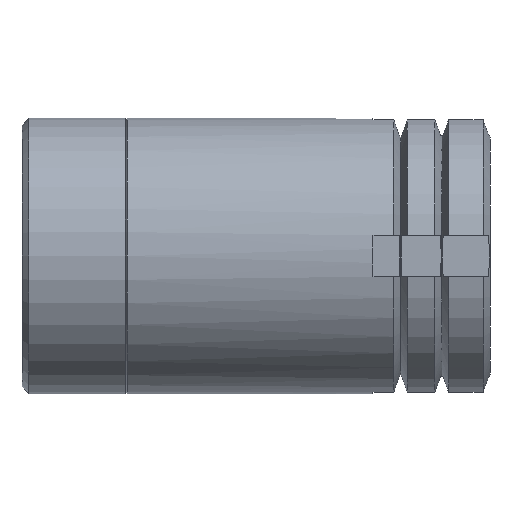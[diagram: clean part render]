
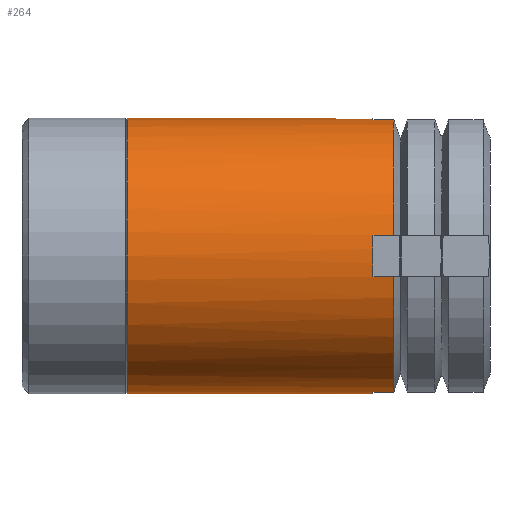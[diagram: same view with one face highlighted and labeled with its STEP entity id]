
A CAD part, front view. The second image highlights one B-rep face of the part: STEP entity #264.
In plain terms, the highlighted cylindrical face has radius 20 mm (diameter 40 mm), a full revolution.
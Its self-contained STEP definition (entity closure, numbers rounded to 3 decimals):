
#264 = ADVANCED_FACE( '', ( #402, #403 ), #404, .T. );
#402 = FACE_OUTER_BOUND( '', #640, .T. );
#403 = FACE_OUTER_BOUND( '', #641, .T. );
#404 = CYLINDRICAL_SURFACE( '', #642, 20. );
#640 = EDGE_LOOP( '', ( #922 ) );
#641 = EDGE_LOOP( '', ( #923, #924, #925, #926, #927, #928, #929, #930, #931, #932, #933, #934, #935, #936, #937, #938 ) );
#642 = AXIS2_PLACEMENT_3D( '', #939, #940, #941 );
#922 = ORIENTED_EDGE( '', *, *, #1500, .F. );
#923 = ORIENTED_EDGE( '', *, *, #1501, .F. );
#924 = ORIENTED_EDGE( '', *, *, #1502, .T. );
#925 = ORIENTED_EDGE( '', *, *, #1503, .T. );
#926 = ORIENTED_EDGE( '', *, *, #1504, .F. );
#927 = ORIENTED_EDGE( '', *, *, #1505, .F. );
#928 = ORIENTED_EDGE( '', *, *, #1506, .T. );
#929 = ORIENTED_EDGE( '', *, *, #1507, .T. );
#930 = ORIENTED_EDGE( '', *, *, #1508, .F. );
#931 = ORIENTED_EDGE( '', *, *, #1509, .F. );
#932 = ORIENTED_EDGE( '', *, *, #1486, .T. );
#933 = ORIENTED_EDGE( '', *, *, #1510, .T. );
#934 = ORIENTED_EDGE( '', *, *, #1511, .F. );
#935 = ORIENTED_EDGE( '', *, *, #1512, .F. );
#936 = ORIENTED_EDGE( '', *, *, #1513, .T. );
#937 = ORIENTED_EDGE( '', *, *, #1514, .T. );
#938 = ORIENTED_EDGE( '', *, *, #1515, .F. );
#939 = CARTESIAN_POINT( '', ( 0., 5.577, 0. ) );
#940 = DIRECTION( '', ( 0., 1., 0. ) );
#941 = DIRECTION( '', ( 0., 0., -1. ) );
#1486 = EDGE_CURVE( '', #1685, #1683, #1686, .T. );
#1500 = EDGE_CURVE( '', #1712, #1712, #1713, .T. );
#1501 = EDGE_CURVE( '', #1714, #1715, #1716, .T. );
#1502 = EDGE_CURVE( '', #1714, #1717, #1718, .T. );
#1503 = EDGE_CURVE( '', #1717, #1719, #1720, .T. );
#1504 = EDGE_CURVE( '', #1721, #1719, #1722, .T. );
#1505 = EDGE_CURVE( '', #1723, #1721, #1724, .T. );
#1506 = EDGE_CURVE( '', #1723, #1725, #1726, .T. );
#1507 = EDGE_CURVE( '', #1725, #1727, #1728, .T. );
#1508 = EDGE_CURVE( '', #1729, #1727, #1730, .T. );
#1509 = EDGE_CURVE( '', #1685, #1729, #1731, .T. );
#1510 = EDGE_CURVE( '', #1683, #1732, #1733, .T. );
#1511 = EDGE_CURVE( '', #1734, #1732, #1735, .T. );
#1512 = EDGE_CURVE( '', #1736, #1734, #1737, .T. );
#1513 = EDGE_CURVE( '', #1736, #1738, #1739, .T. );
#1514 = EDGE_CURVE( '', #1738, #1740, #1741, .T. );
#1515 = EDGE_CURVE( '', #1715, #1740, #1742, .T. );
#1683 = VERTEX_POINT( '', #2011 );
#1685 = VERTEX_POINT( '', #2019 );
#1686 = LINE( '', #2020, #2021 );
#1712 = VERTEX_POINT( '', #2049 );
#1713 = CIRCLE( '', #2050, 20. );
#1714 = VERTEX_POINT( '', #2051 );
#1715 = VERTEX_POINT( '', #2052 );
#1716 = CIRCLE( '', #2053, 20. );
#1717 = VERTEX_POINT( '', #2054 );
#1718 = LINE( '', #2055, #2056 );
#1719 = VERTEX_POINT( '', #2057 );
#1720 = CIRCLE( '', #2058, 20. );
#1721 = VERTEX_POINT( '', #2059 );
#1722 = LINE( '', #2060, #2061 );
#1723 = VERTEX_POINT( '', #2062 );
#1724 = CIRCLE( '', #2063, 20. );
#1725 = VERTEX_POINT( '', #2064 );
#1726 = LINE( '', #2065, #2066 );
#1727 = VERTEX_POINT( '', #2067 );
#1728 = CIRCLE( '', #2068, 20. );
#1729 = VERTEX_POINT( '', #2069 );
#1730 = LINE( '', #2070, #2071 );
#1731 = CIRCLE( '', #2072, 20. );
#1732 = VERTEX_POINT( '', #2073 );
#1733 = CIRCLE( '', #2074, 20. );
#1734 = VERTEX_POINT( '', #2075 );
#1735 = LINE( '', #2076, #2077 );
#1736 = VERTEX_POINT( '', #2078 );
#1737 = CIRCLE( '', #2079, 20. );
#1738 = VERTEX_POINT( '', #2080 );
#1739 = LINE( '', #2081, #2082 );
#1740 = VERTEX_POINT( '', #2083 );
#1741 = CIRCLE( '', #2084, 20. );
#1742 = LINE( '', #2085, #2086 );
#2011 = CARTESIAN_POINT( '', ( -19.774, 54., -3. ) );
#2019 = CARTESIAN_POINT( '', ( -19.774, 51., -3. ) );
#2020 = CARTESIAN_POINT( '', ( -19.774, 51., -3. ) );
#2021 = VECTOR( '', #2687, 1000. );
#2049 = CARTESIAN_POINT( '', ( 0., 15.264, -20. ) );
#2050 = AXIS2_PLACEMENT_3D( '', #2723, #2724, #2725 );
#2051 = CARTESIAN_POINT( '', ( 19.774, 51., 3. ) );
#2052 = CARTESIAN_POINT( '', ( 19.774, 51., -3. ) );
#2053 = AXIS2_PLACEMENT_3D( '', #2726, #2727, #2728 );
#2054 = CARTESIAN_POINT( '', ( 19.774, 54., 3. ) );
#2055 = CARTESIAN_POINT( '', ( 19.774, 51., 3. ) );
#2056 = VECTOR( '', #2729, 1000. );
#2057 = CARTESIAN_POINT( '', ( 3., 54., 19.774 ) );
#2058 = AXIS2_PLACEMENT_3D( '', #2730, #2731, #2732 );
#2059 = CARTESIAN_POINT( '', ( 3., 51., 19.774 ) );
#2060 = CARTESIAN_POINT( '', ( 3., 51., 19.774 ) );
#2061 = VECTOR( '', #2733, 1000. );
#2062 = CARTESIAN_POINT( '', ( -3., 51., 19.774 ) );
#2063 = AXIS2_PLACEMENT_3D( '', #2734, #2735, #2736 );
#2064 = CARTESIAN_POINT( '', ( -3., 54., 19.774 ) );
#2065 = CARTESIAN_POINT( '', ( -3., 51., 19.774 ) );
#2066 = VECTOR( '', #2737, 1000. );
#2067 = CARTESIAN_POINT( '', ( -19.774, 54., 3. ) );
#2068 = AXIS2_PLACEMENT_3D( '', #2738, #2739, #2740 );
#2069 = CARTESIAN_POINT( '', ( -19.774, 51., 3. ) );
#2070 = CARTESIAN_POINT( '', ( -19.774, 51., 3. ) );
#2071 = VECTOR( '', #2741, 1000. );
#2072 = AXIS2_PLACEMENT_3D( '', #2742, #2743, #2744 );
#2073 = CARTESIAN_POINT( '', ( -3., 54., -19.774 ) );
#2074 = AXIS2_PLACEMENT_3D( '', #2745, #2746, #2747 );
#2075 = CARTESIAN_POINT( '', ( -3., 51., -19.774 ) );
#2076 = CARTESIAN_POINT( '', ( -3., 51., -19.774 ) );
#2077 = VECTOR( '', #2748, 1000. );
#2078 = CARTESIAN_POINT( '', ( 3., 51., -19.774 ) );
#2079 = AXIS2_PLACEMENT_3D( '', #2749, #2750, #2751 );
#2080 = CARTESIAN_POINT( '', ( 3., 54., -19.774 ) );
#2081 = CARTESIAN_POINT( '', ( 3., 51., -19.774 ) );
#2082 = VECTOR( '', #2752, 1000. );
#2083 = CARTESIAN_POINT( '', ( 19.774, 54., -3. ) );
#2084 = AXIS2_PLACEMENT_3D( '', #2753, #2754, #2755 );
#2085 = CARTESIAN_POINT( '', ( 19.774, 51., -3. ) );
#2086 = VECTOR( '', #2756, 1000. );
#2687 = DIRECTION( '', ( 0., 1., 0. ) );
#2723 = CARTESIAN_POINT( '', ( 0., 15.264, 0. ) );
#2724 = DIRECTION( '', ( 0., -1., 0. ) );
#2725 = DIRECTION( '', ( 0., 0., -1. ) );
#2726 = CARTESIAN_POINT( '', ( 0., 51., 0. ) );
#2727 = DIRECTION( '', ( 0., 1., 0. ) );
#2728 = DIRECTION( '', ( 0., 0., 1. ) );
#2729 = DIRECTION( '', ( 0., 1., 0. ) );
#2730 = CARTESIAN_POINT( '', ( 0., 54., 0. ) );
#2731 = DIRECTION( '', ( 0., -1., 0. ) );
#2732 = DIRECTION( '', ( 0., 0., -1. ) );
#2733 = DIRECTION( '', ( 0., 1., 0. ) );
#2734 = CARTESIAN_POINT( '', ( 0., 51., 0. ) );
#2735 = DIRECTION( '', ( 0., 1., 0. ) );
#2736 = DIRECTION( '', ( 0., 0., 1. ) );
#2737 = DIRECTION( '', ( 0., 1., 0. ) );
#2738 = CARTESIAN_POINT( '', ( 0., 54., 0. ) );
#2739 = DIRECTION( '', ( 0., -1., 0. ) );
#2740 = DIRECTION( '', ( 0., 0., -1. ) );
#2741 = DIRECTION( '', ( 0., 1., 0. ) );
#2742 = CARTESIAN_POINT( '', ( 0., 51., 0. ) );
#2743 = DIRECTION( '', ( 0., 1., 0. ) );
#2744 = DIRECTION( '', ( 0., 0., 1. ) );
#2745 = CARTESIAN_POINT( '', ( 0., 54., 0. ) );
#2746 = DIRECTION( '', ( 0., -1., 0. ) );
#2747 = DIRECTION( '', ( 0., 0., -1. ) );
#2748 = DIRECTION( '', ( 0., 1., 0. ) );
#2749 = CARTESIAN_POINT( '', ( 0., 51., 0. ) );
#2750 = DIRECTION( '', ( 0., 1., 0. ) );
#2751 = DIRECTION( '', ( 0., 0., 1. ) );
#2752 = DIRECTION( '', ( 0., 1., 0. ) );
#2753 = CARTESIAN_POINT( '', ( 0., 54., 0. ) );
#2754 = DIRECTION( '', ( 0., -1., 0. ) );
#2755 = DIRECTION( '', ( 0., 0., -1. ) );
#2756 = DIRECTION( '', ( 0., 1., 0. ) );
